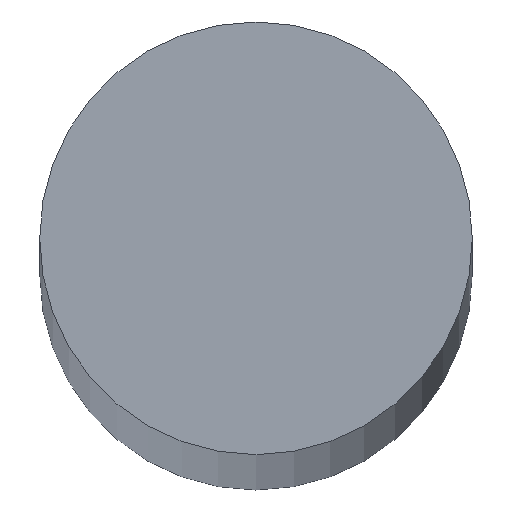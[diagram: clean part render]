
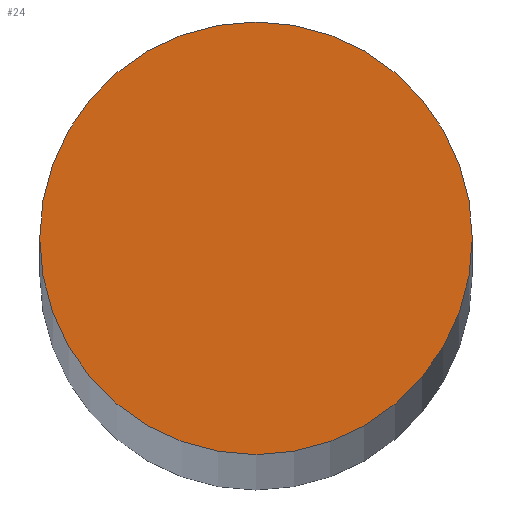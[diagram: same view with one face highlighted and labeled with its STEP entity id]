
A CAD part, top view. The second image highlights one B-rep face of the part: STEP entity #24.
In plain terms, the highlighted planar face has unit normal (0, 0, 1).
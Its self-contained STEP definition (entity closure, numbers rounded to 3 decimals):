
#7 = EDGE_CURVE ( 'NONE', #76, #75, #50, .T. ) ;
#13 = EDGE_CURVE ( 'NONE', #75, #76, #54, .T. ) ;
#19 = AXIS2_PLACEMENT_3D ( 'NONE', #92, #94, #95 ) ;
#20 = AXIS2_PLACEMENT_3D ( 'NONE', #101, #106, #107 ) ;
#21 = AXIS2_PLACEMENT_3D ( 'NONE', #81, #88, #89 ) ;
#24 = ADVANCED_FACE ( 'NONE', ( #57 ), #96, .T. ) ;
#33 = EDGE_LOOP ( 'NONE', ( #39, #38 ) ) ;
#38 = ORIENTED_EDGE ( 'NONE', *, *, #13, .T. ) ;
#39 = ORIENTED_EDGE ( 'NONE', *, *, #7, .T. ) ;
#50 = CIRCLE ( 'NONE', #21, 6. ) ;
#54 = CIRCLE ( 'NONE', #19, 6. ) ;
#57 = FACE_OUTER_BOUND ( 'NONE', #33, .T. ) ;
#75 = VERTEX_POINT ( 'NONE', #115 ) ;
#76 = VERTEX_POINT ( 'NONE', #108 ) ;
#81 = CARTESIAN_POINT ( 'NONE',  ( 0., 0., 281. ) ) ;
#88 = DIRECTION ( 'NONE',  ( 0., 0., 1. ) ) ;
#89 = DIRECTION ( 'NONE',  ( 1., 0., 0. ) ) ;
#92 = CARTESIAN_POINT ( 'NONE',  ( 0., 0., 281. ) ) ;
#94 = DIRECTION ( 'NONE',  ( 0., 0., 1. ) ) ;
#95 = DIRECTION ( 'NONE',  ( 1., 0., 0. ) ) ;
#96 = PLANE ( 'NONE',  #20 ) ;
#101 = CARTESIAN_POINT ( 'NONE',  ( 0., 0., 281. ) ) ;
#106 = DIRECTION ( 'NONE',  ( 0., 0., 1. ) ) ;
#107 = DIRECTION ( 'NONE',  ( 1., 0., 0. ) ) ;
#108 = CARTESIAN_POINT ( 'NONE',  ( -6., 0., 281. ) ) ;
#115 = CARTESIAN_POINT ( 'NONE',  ( 6., 0., 281. ) ) ;
